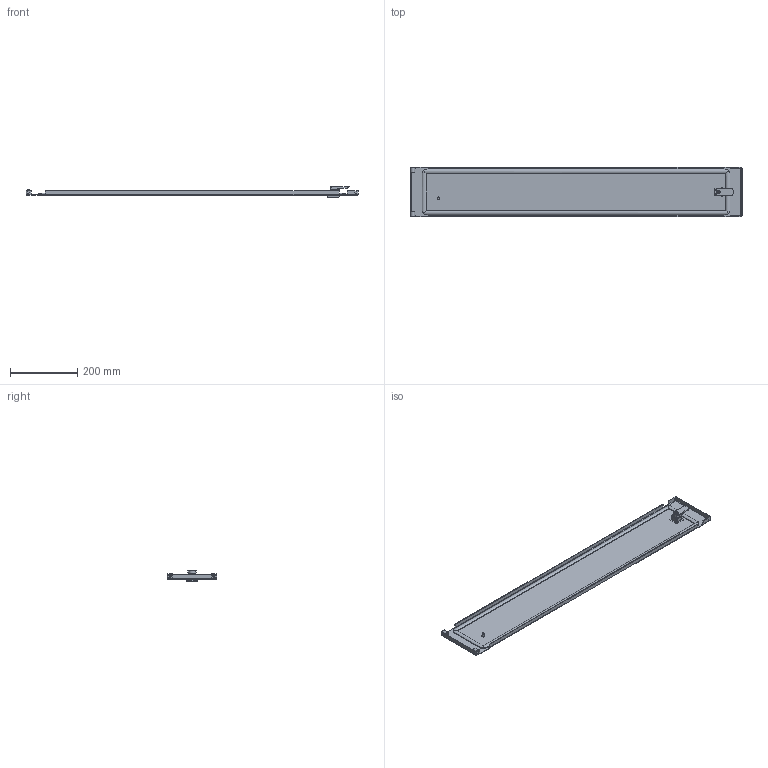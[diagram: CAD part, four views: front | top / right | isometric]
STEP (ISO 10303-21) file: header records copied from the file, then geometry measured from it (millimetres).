
FILE_DESCRIPTION(('STEP AP203'), '1');
FILE_NAME('Äâåðü ñåêöèîííàÿ 150õ1000 ìì OptiBox M 419351 ÊÝÀÇ', '', ('UNSPECIFIED'), ('UNSPECIFIED'), 'C3D Converter', 'C3D Toolkit', '');
FILE_SCHEMA(('CONFIG_CONTROL_DESIGN'));
Length unit declared in the file: millimetre
Bounding box: 986.4 x 147 x 32.2 mm (x, y, z)
Volume: 447853.7 mm3; surface area: 412745.7 mm2
Topology: 6 solids, 6 shells, 355 faces, 928 edges, 588 vertices
Faces by surface type: plane 252, cylinder 92, bspline 8, cone 2, torus 1
Full cylindrical faces by diameter (mm): 0.75 x1, 1 x1, 3 x1, 5 x2, 6 x1, 7.5 x1, 9.3 x1, 10 x1, 20 x1
Entity records: 11864 total; most frequent: CARTESIAN_POINT 3095, ORIENTED_EDGE 1830, DIRECTION 1731, EDGE_CURVE 915, LINE 705, VECTOR 705, VERTEX_POINT 588, AXIS2_PLACEMENT_3D 513
